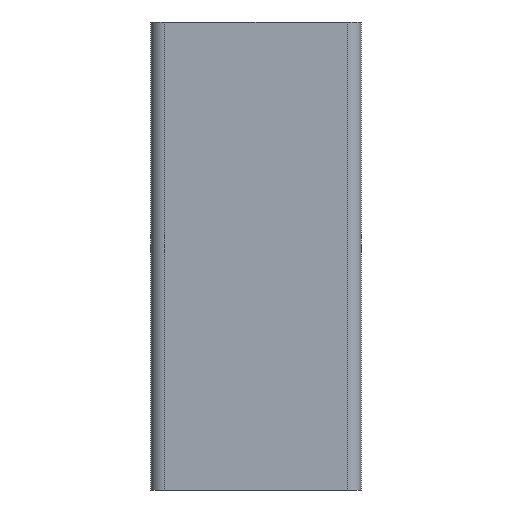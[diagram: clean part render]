
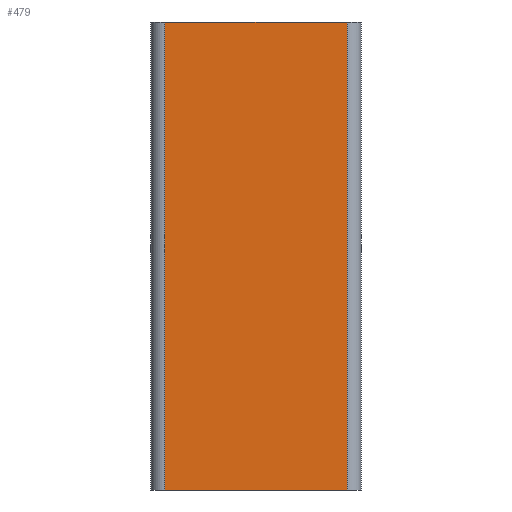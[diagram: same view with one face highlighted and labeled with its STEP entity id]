
A CAD part, left-side view. The second image highlights one B-rep face of the part: STEP entity #479.
In plain terms, the highlighted planar face has unit normal (-1, 0, 0).
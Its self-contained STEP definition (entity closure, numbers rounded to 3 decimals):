
#50 = EDGE_CURVE ( 'NONE', #2668, #1811, #1868, .T. ) ;
#362 = VERTEX_POINT ( 'NONE', #2593 ) ;
#479 = ADVANCED_FACE ( 'NONE', ( #3338 ), #990, .F. ) ;
#496 = VECTOR ( 'NONE', #1671, 1000. ) ;
#794 = VERTEX_POINT ( 'NONE', #1673 ) ;
#809 = VECTOR ( 'NONE', #1413, 1000. ) ;
#962 = CARTESIAN_POINT ( 'NONE',  ( -22.5, -22.5, 100. ) ) ;
#990 = PLANE ( 'NONE',  #1806 ) ;
#1034 = VECTOR ( 'NONE', #2452, 1000. ) ;
#1086 = DIRECTION ( 'NONE',  ( 0., 0., -1. ) ) ;
#1344 = CARTESIAN_POINT ( 'NONE',  ( -22.5, -22.5, 0. ) ) ;
#1413 = DIRECTION ( 'NONE',  ( 0., -1., 0. ) ) ;
#1671 = DIRECTION ( 'NONE',  ( 0., -1., 0. ) ) ;
#1673 = CARTESIAN_POINT ( 'NONE',  ( -22.5, -19.5, 0. ) ) ;
#1767 = ORIENTED_EDGE ( 'NONE', *, *, #2677, .T. ) ;
#1806 = AXIS2_PLACEMENT_3D ( 'NONE', #4068, #2408, #5174 ) ;
#1811 = VERTEX_POINT ( 'NONE', #4250 ) ;
#1868 = LINE ( 'NONE', #962, #809 ) ;
#2135 = ORIENTED_EDGE ( 'NONE', *, *, #3345, .T. ) ;
#2162 = EDGE_CURVE ( 'NONE', #794, #1811, #2394, .T. ) ;
#2216 = CARTESIAN_POINT ( 'NONE',  ( -22.5, 19.5, 100. ) ) ;
#2394 = LINE ( 'NONE', #4739, #1034 ) ;
#2408 = DIRECTION ( 'NONE',  ( 1., 0., 0. ) ) ;
#2452 = DIRECTION ( 'NONE',  ( 0., 0., 1. ) ) ;
#2593 = CARTESIAN_POINT ( 'NONE',  ( -22.5, 19.5, 0. ) ) ;
#2668 = VERTEX_POINT ( 'NONE', #2216 ) ;
#2677 = EDGE_CURVE ( 'NONE', #362, #794, #4442, .T. ) ;
#2828 = ORIENTED_EDGE ( 'NONE', *, *, #2162, .T. ) ;
#3338 = FACE_OUTER_BOUND ( 'NONE', #3408, .T. ) ;
#3345 = EDGE_CURVE ( 'NONE', #2668, #362, #5266, .T. ) ;
#3408 = EDGE_LOOP ( 'NONE', ( #1767, #2828, #4941, #2135 ) ) ;
#3473 = VECTOR ( 'NONE', #1086, 1000. ) ;
#4068 = CARTESIAN_POINT ( 'NONE',  ( -22.5, -22.5, 100. ) ) ;
#4250 = CARTESIAN_POINT ( 'NONE',  ( -22.5, -19.5, 100. ) ) ;
#4442 = LINE ( 'NONE', #1344, #496 ) ;
#4739 = CARTESIAN_POINT ( 'NONE',  ( -22.5, -19.5, 100. ) ) ;
#4793 = CARTESIAN_POINT ( 'NONE',  ( -22.5, 19.5, 100. ) ) ;
#4941 = ORIENTED_EDGE ( 'NONE', *, *, #50, .F. ) ;
#5174 = DIRECTION ( 'NONE',  ( 0., 0., -1. ) ) ;
#5266 = LINE ( 'NONE', #4793, #3473 ) ;
